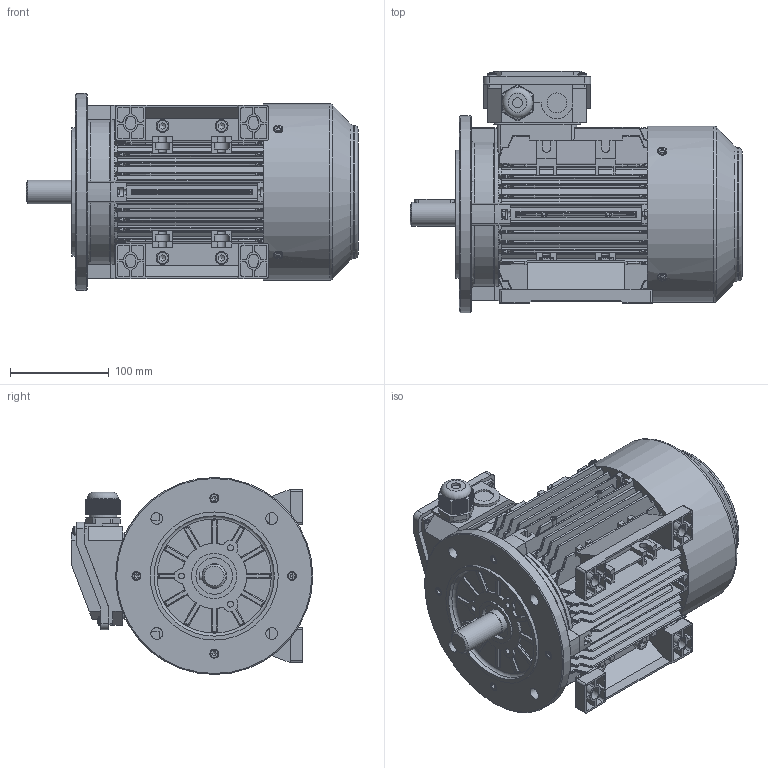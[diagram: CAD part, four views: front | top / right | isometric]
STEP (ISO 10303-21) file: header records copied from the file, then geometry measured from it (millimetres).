
FILE_DESCRIPTION(/* description */ ('02-IP55-Aluminium-IE1_IE2_IE3-90L-B35-top'),/* implementation_level */ '2;1');
FILE_NAME(/* name */ 'H:\BESTANDEN\121 - OMEC\1603 - TA serie\1603 - Gereed\02-IP55-Aluminium-IE1_IE2_IE3-90L-B35-top.stp',/* time_stamp */ '2016-06-06T10:10:56+02:00',/* author */ ('Freek'),/* organization */ (''),/* preprocessor_version */ 'ST-DEVELOPER v15.6',/* originating_system */ 'Autodesk Inventor 2015',/* authorisation */ '');
FILE_SCHEMA (('AUTOMOTIVE_DESIGN { 1 0 10303 214 3 1 1 }'));
Products named in the file (1): 1603-058
Bounding box: 337 x 245.1 x 200 mm (x, y, z)
Volume: 6513292.9 mm3; surface area: 664182.1 mm2
Topology: 2 solids, 11 shells, 3199 faces, 8502 edges, 5425 vertices
Faces by surface type: plane 1648, cylinder 724, bspline 347, cone 248, torus 158, sphere 74
Full cylindrical faces by diameter (mm): 3 x4, 4 x1, 4.134 x1, 4.567 x5, 5 x19, 5.5 x4, 5.827 x1, 6 x11, 8 x8, 8.5 x8, 9 x4, 10 x2, 12 x4, 13 x4, 20 x1, 23 x1, 24 x1, 25 x1, 28 x1, 31 x1, 37 x1, 46 x1, 122 x1, 130 x1, 135 x1, 142 x1, 179 x1, 200 x1
Entity records: 113005 total; most frequent: CARTESIAN_POINT 34230, ORIENTED_EDGE 16526, DIRECTION 14530, EDGE_CURVE 8255, VERTEX_POINT 5356, AXIS2_PLACEMENT_3D 5042, LINE 4446, VECTOR 4446
